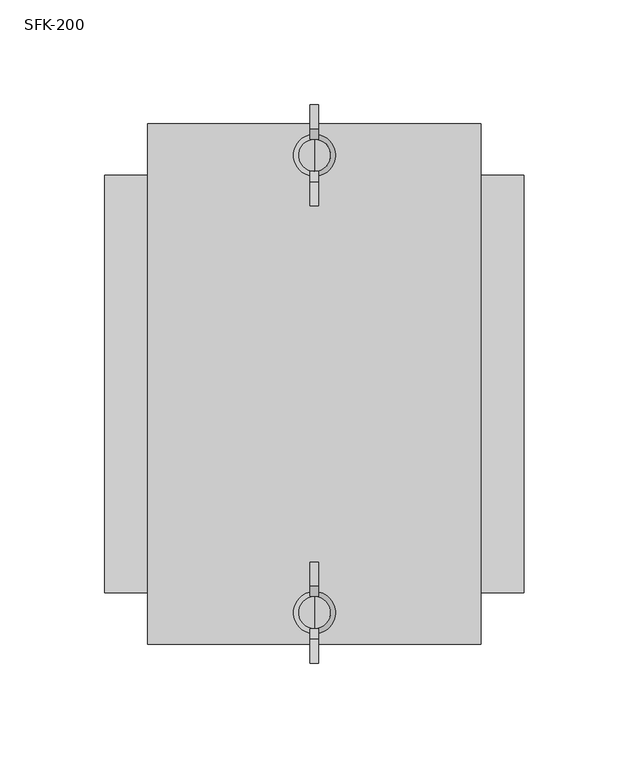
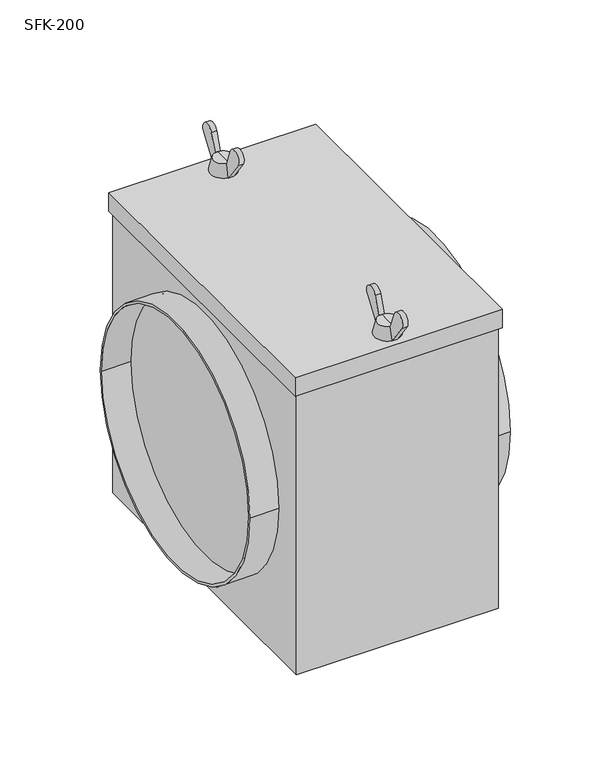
"""IFC4 building model written with IfcOpenShell, lengths in millimetres: damper geometry, СВ_ФильтрКассетный_КанальныйКруглый_DN100-315_SFK : SFK-200."""

from ifc_helpers import new_model, si_unit, point, frame, frame_2d, origin, origin_2d, place, context, project, spatial, polyline, circle_curve, trimmed, segment, composite_curve, outline, extrude, source, transform, mapped, element, save
from ifc_brep_helpers import plane_surface, revolved_surface, advanced_brep


def sfk_200_fe067b95(model_context):
    return source(origin(), model_context, "Body", "SolidModel", [
        extrude(outline(composite_curve([segment(polyline([(-86.1098085, 139.2418266), (-99.0, 121.5), (-101.3086819, 131.5), (-96.483336, 144.757529)]), True, "CONTINUOUS"), segment(trimmed(circle_curve(frame_2d((-90.9089815, 142.7286299)), 5.9321041), [point((-96.483336, 144.757529))], [point((-86.1098085, 139.2418266))], False, "CARTESIAN"), True, "CONTINUOUS")], self_intersect=False)), frame((-2.0, 0.0, 0.0), z_axis=(1.0, 0.0, 0.0), x_axis=(0.0, 1.0, 0.0)), (0.0, 0.0, 1.0), 4.0),
        extrude(outline(composite_curve([segment(trimmed(circle_curve(frame_2d((-127.0910185, 142.7286299)), 5.9321041), [point((-131.8901915, 139.2418266))], [point((-121.516664, 144.757529))], False, "CARTESIAN"), True, "CONTINUOUS"), segment(polyline([(-121.516664, 144.757529), (-116.6913181, 131.5), (-119.0, 121.5), (-131.8901915, 139.2418266)]), True, "CONTINUOUS")], self_intersect=False)), frame((-2.0, 0.0, 0.0), z_axis=(1.0, 0.0, 0.0), x_axis=(0.0, 1.0, 0.0)), (0.0, 0.0, 1.0), 4.0),
        advanced_brep(
        [(0.0, -116.6913181, 131.5), (0.0, -101.3086819, 131.5), (0.0, -99.0, 121.5), (0.0, -119.0, 121.5), (0.0, -109.0, 131.5), (0.0, -109.0, 121.5)],
        [
            (0, 1, circle_curve(frame((0.0, -109.0, 131.5), z_axis=(0.0, 0.0, -1.0), x_axis=(0.0, 1.0, 0.0)), 7.6913181)),
            (1, 2),
            (2, 3, circle_curve(frame((0.0, -109.0, 121.5), z_axis=(0.0, 0.0, 1.0), x_axis=(0.0, 1.0, 0.0)), 10.0)),
            (3, 0),
            (1, 0, circle_curve(frame((0.0, -109.0, 131.5), z_axis=(0.0, 0.0, -1.0), x_axis=(0.0, 1.0, 0.0)), 7.6913181)),
            (3, 2, circle_curve(frame((0.0, -109.0, 121.5), z_axis=(0.0, 0.0, 1.0), x_axis=(0.0, 1.0, 0.0)), 10.0)),
            (4, 1),
            (0, 4),
            (2, 5),
            (5, 3),
        ],
        [
            revolved_surface(polyline([(0.0, -99.0, 121.5), (0.0, -101.3086819, 131.5)]), (0.0, -109.0, 121.5), (0.0, 0.0, 1.0)),
            plane_surface(frame((0.0, -109.0, 131.5), z_axis=(0.0, 0.0, 1.0), x_axis=(0.0, 1.0, 0.0))),
            plane_surface(frame((0.0, -109.0, 121.5), z_axis=(0.0, 0.0, -1.0), x_axis=(0.0, 1.0, 0.0))),
        ],
        [
            (0, [[1, 2, 3, 4]]),
            (0, [[5, -4, 6, -2]]),
            (1, [[7, -1, 8]]),
            (1, [[-8, -5, -7]]),
            (2, [[-3, 9, 10]]),
            (2, [[-6, -10, -9]]),
        ],
    ),
        extrude(outline(composite_curve([segment(polyline([(131.8901915, 139.2418266), (119.0, 121.5), (116.6913181, 131.5), (121.516664, 144.757529)]), True, "CONTINUOUS"), segment(trimmed(circle_curve(frame_2d((127.0910185, 142.7286299)), 5.9321041), [point((121.516664, 144.757529))], [point((131.8901915, 139.2418266))], False, "CARTESIAN"), True, "CONTINUOUS")], self_intersect=False)), frame((-2.0, 0.0, 0.0), z_axis=(1.0, 0.0, 0.0), x_axis=(0.0, 1.0, 0.0)), (0.0, 0.0, 1.0), 4.0),
        extrude(outline(composite_curve([segment(trimmed(circle_curve(frame_2d((90.9089815, 142.7286299)), 5.9321041), [point((86.1098085, 139.2418266))], [point((96.483336, 144.757529))], False, "CARTESIAN"), True, "CONTINUOUS"), segment(polyline([(96.483336, 144.757529), (101.3086819, 131.5), (99.0, 121.5), (86.1098085, 139.2418266)]), True, "CONTINUOUS")], self_intersect=False)), frame((-2.0, 0.0, 0.0), z_axis=(1.0, 0.0, 0.0), x_axis=(0.0, 1.0, 0.0)), (0.0, 0.0, 1.0), 4.0),
        advanced_brep(
        [(0.0, 101.3086819, 131.5), (0.0, 116.6913181, 131.5), (0.0, 119.0, 121.5), (0.0, 99.0, 121.5), (0.0, 109.0, 131.5), (0.0, 109.0, 121.5)],
        [
            (0, 1, circle_curve(frame((0.0, 109.0, 131.5), z_axis=(0.0, 0.0, -1.0), x_axis=(0.0, 1.0, 0.0)), 7.6913181)),
            (1, 2),
            (2, 3, circle_curve(frame((0.0, 109.0, 121.5), z_axis=(0.0, 0.0, 1.0), x_axis=(0.0, 1.0, 0.0)), 10.0)),
            (3, 0),
            (1, 0, circle_curve(frame((0.0, 109.0, 131.5), z_axis=(0.0, 0.0, -1.0), x_axis=(0.0, 1.0, 0.0)), 7.6913181)),
            (3, 2, circle_curve(frame((0.0, 109.0, 121.5), z_axis=(0.0, 0.0, 1.0), x_axis=(0.0, 1.0, 0.0)), 10.0)),
            (4, 1),
            (0, 4),
            (2, 5),
            (5, 3),
        ],
        [
            revolved_surface(polyline([(0.0, 119.0, 121.5), (0.0, 116.6913181, 131.5)]), (0.0, 109.0, 121.5), (0.0, 0.0, 1.0)),
            plane_surface(frame((0.0, 109.0, 131.5), z_axis=(0.0, 0.0, 1.0), x_axis=(0.0, 1.0, 0.0))),
            plane_surface(frame((0.0, 109.0, 121.5), z_axis=(0.0, 0.0, -1.0), x_axis=(0.0, 1.0, 0.0))),
        ],
        [
            (0, [[1, 2, 3, 4]]),
            (0, [[5, -4, 6, -2]]),
            (1, [[7, -1, 8]]),
            (1, [[-8, -5, -7]]),
            (2, [[-3, 9, 10]]),
            (2, [[-6, -10, -9]]),
        ],
    ),
        extrude(outline(polyline([(-79.5, 124.0), (79.5, 124.0), (79.5, -124.0), (-79.5, -124.0), (-79.5, 124.0)])), frame((0.0, 0.0, 106.5), z_axis=(0.0, 0.0, 1.0), x_axis=(1.0, 0.0, 0.0)), (0.0, 0.0, 1.0), 15.0),
        extrude(outline(polyline([(77.5, -122.0), (-77.5, -122.0), (-77.5, 122.0), (77.5, 122.0), (77.5, -122.0)])), frame((0.0, 0.0, -121.5), z_axis=(0.0, 0.0, 1.0), x_axis=(1.0, 0.0, 0.0)), (0.0, 0.0, 1.0), 228.0),
        extrude(outline(composite_curve([segment(trimmed(circle_curve(origin_2d(), 99.5), [point((-99.5, 0.0))], [point((99.5, 0.0))], False, "CARTESIAN"), True, "CONTINUOUS"), segment(trimmed(circle_curve(origin_2d(), 99.5), [point((99.5, 0.0))], [point((-99.5, 0.0))], False, "CARTESIAN"), True, "CONTINUOUS")], self_intersect=False), holes=[composite_curve([segment(trimmed(circle_curve(origin_2d(), 97.5), [point((-97.5, 0.0))], [point((97.5, 0.0))], True, "CARTESIAN"), True, "CONTINUOUS"), segment(trimmed(circle_curve(origin_2d(), 97.5), [point((97.5, 0.0))], [point((-97.5, 0.0))], True, "CARTESIAN"), True, "CONTINUOUS")], self_intersect=False)]), frame((-100.0, 0.0, 0.0), z_axis=(1.0, 0.0, 0.0), x_axis=(0.0, 1.0, 0.0)), (0.0, 0.0, 1.0), 22.5),
        extrude(outline(composite_curve([segment(trimmed(circle_curve(origin_2d(), 99.5), [point((-99.5, 0.0))], [point((99.5, 0.0))], False, "CARTESIAN"), True, "CONTINUOUS"), segment(trimmed(circle_curve(origin_2d(), 99.5), [point((99.5, 0.0))], [point((-99.5, 0.0))], False, "CARTESIAN"), True, "CONTINUOUS")], self_intersect=False), holes=[composite_curve([segment(trimmed(circle_curve(origin_2d(), 97.5), [point((-97.5, 0.0))], [point((97.5, 0.0))], True, "CARTESIAN"), True, "CONTINUOUS"), segment(trimmed(circle_curve(origin_2d(), 97.5), [point((97.5, 0.0))], [point((-97.5, 0.0))], True, "CARTESIAN"), True, "CONTINUOUS")], self_intersect=False)]), frame((77.5, 0.0, 0.0), z_axis=(1.0, 0.0, 0.0), x_axis=(0.0, 1.0, 0.0)), (0.0, 0.0, 1.0), 22.5),
    ])


if __name__ == "__main__":
    model = new_model("IFC4")
    model_context = context("Model", 3, world=origin())
    ifc_project = project(units=[si_unit("LENGTHUNIT", "METRE", prefix="MILLI")], contexts=[model_context])
    site = spatial("IfcSite", under=ifc_project)
    building = spatial("IfcBuilding", under=site)
    placement = place(None, origin())
    sfk_200_shape = sfk_200_fe067b95(model_context)
    element("IfcDamper", 1, ObjectType="СВ_ФильтрКассетный_КанальныйКруглый_DN100-315_SFK : SFK-200", at=placement, inside=building, context=model_context, shape_type="MappedRepresentation", body=[
        mapped(sfk_200_shape, transform((0.0, 0.0, 0.0), x_axis=(1.0, 0.0, 0.0), y_axis=(0.0, 1.0, 0.0), z_axis=(0.0, 0.0, 1.0))),
    ])
    save(model, "model.ifc")
